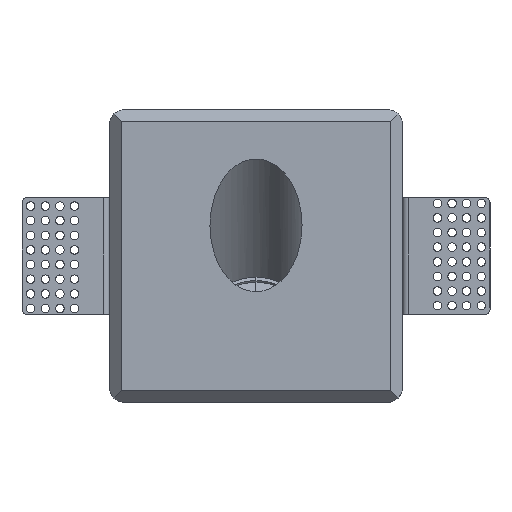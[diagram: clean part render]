
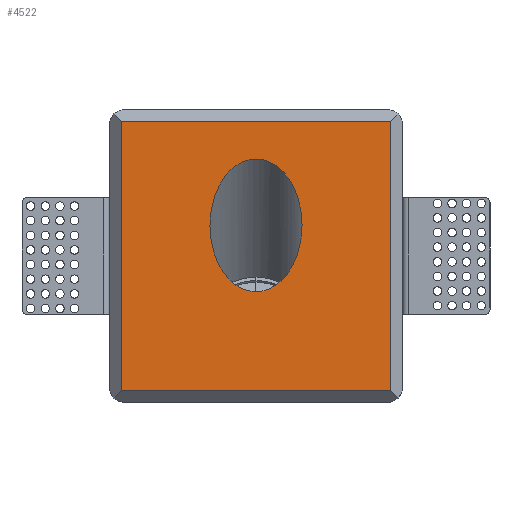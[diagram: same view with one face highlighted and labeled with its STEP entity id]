
A CAD part, top view. The second image highlights one B-rep face of the part: STEP entity #4522.
In plain terms, the highlighted planar face has unit normal (0, 0, 1).
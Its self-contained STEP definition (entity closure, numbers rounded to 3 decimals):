
#23=ELLIPSE('',#5076,22.673,15.75);
#24=ELLIPSE('',#5078,22.673,15.75);
#216=FACE_BOUND('',#881,.T.);
#263=PLANE('',#5102);
#499=FACE_OUTER_BOUND('',#880,.T.);
#880=EDGE_LOOP('',(#4032,#4033,#4034,#4035));
#881=EDGE_LOOP('',(#4036,#4037));
#1474=LINE('',#7973,#1754);
#1478=LINE('',#7986,#1758);
#1496=LINE('',#8038,#1776);
#1497=LINE('',#8040,#1777);
#1754=VECTOR('',#6436,304.8);
#1758=VECTOR('',#6446,304.8);
#1776=VECTOR('',#6498,304.8);
#1777=VECTOR('',#6501,304.8);
#2163=VERTEX_POINT('',#7954);
#2165=VERTEX_POINT('',#7958);
#2169=VERTEX_POINT('',#7970);
#2170=VERTEX_POINT('',#7972);
#2175=VERTEX_POINT('',#7983);
#2176=VERTEX_POINT('',#7985);
#2773=EDGE_CURVE('',#2163,#2165,#23,.T.);
#2774=EDGE_CURVE('',#2165,#2163,#24,.T.);
#2779=EDGE_CURVE('',#2170,#2169,#1474,.T.);
#2785=EDGE_CURVE('',#2176,#2175,#1478,.T.);
#2812=EDGE_CURVE('',#2175,#2170,#1496,.T.);
#2813=EDGE_CURVE('',#2176,#2169,#1497,.T.);
#4032=ORIENTED_EDGE('',*,*,#2813,.F.);
#4033=ORIENTED_EDGE('',*,*,#2785,.T.);
#4034=ORIENTED_EDGE('',*,*,#2812,.T.);
#4035=ORIENTED_EDGE('',*,*,#2779,.T.);
#4036=ORIENTED_EDGE('',*,*,#2774,.T.);
#4037=ORIENTED_EDGE('',*,*,#2773,.T.);
#4522=ADVANCED_FACE('',(#499,#216),#263,.T.);
#5076=AXIS2_PLACEMENT_3D('',#7960,#6422,#6423);
#5078=AXIS2_PLACEMENT_3D('',#7962,#6426,#6427);
#5102=AXIS2_PLACEMENT_3D('',#8039,#6499,#6500);
#6422=DIRECTION('center_axis',(0.,0.,-1.));
#6423=DIRECTION('ref_axis',(0.,1.,0.));
#6426=DIRECTION('center_axis',(0.,0.,-1.));
#6427=DIRECTION('ref_axis',(0.,1.,0.));
#6436=DIRECTION('',(0.,1.,0.));
#6446=DIRECTION('',(0.,-1.,0.));
#6498=DIRECTION('',(1.,0.,0.));
#6499=DIRECTION('center_axis',(0.,0.,1.));
#6500=DIRECTION('ref_axis',(-1.,0.,0.));
#6501=DIRECTION('',(1.,0.,0.));
#7954=CARTESIAN_POINT('',(-15.75,10.455,-6.));
#7958=CARTESIAN_POINT('',(15.75,10.455,-6.));
#7960=CARTESIAN_POINT('Origin',(0.,10.455,-6.));
#7962=CARTESIAN_POINT('Origin',(0.,10.455,-6.));
#7970=CARTESIAN_POINT('',(46.,46.,-6.));
#7972=CARTESIAN_POINT('',(46.,-46.,-6.));
#7973=CARTESIAN_POINT('',(46.,-46.,-6.));
#7983=CARTESIAN_POINT('',(-46.,-46.,-6.));
#7985=CARTESIAN_POINT('',(-46.,46.,-6.));
#7986=CARTESIAN_POINT('',(-46.,46.,-6.));
#8038=CARTESIAN_POINT('',(-46.,-46.,-6.));
#8039=CARTESIAN_POINT('Origin',(50.,46.,-6.));
#8040=CARTESIAN_POINT('',(-46.,46.,-6.));
